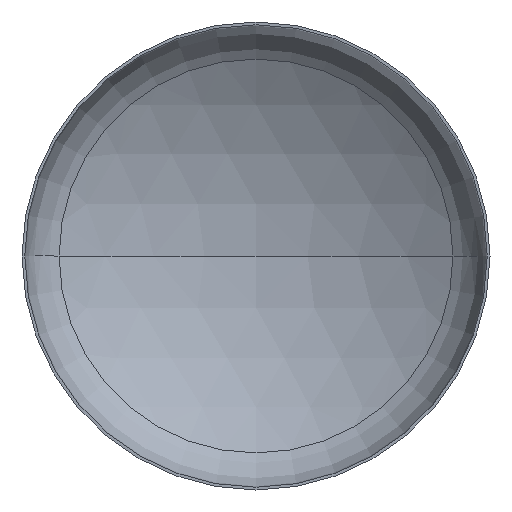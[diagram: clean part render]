
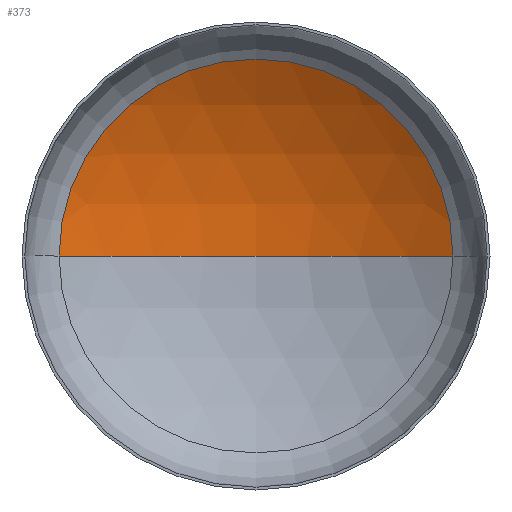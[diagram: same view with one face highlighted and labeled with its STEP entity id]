
A CAD part, front view. The second image highlights one B-rep face of the part: STEP entity #373.
In plain terms, the highlighted spherical face has radius 3600 mm.
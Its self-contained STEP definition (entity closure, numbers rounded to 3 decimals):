
#3 = AXIS2_PLACEMENT_3D ( 'NONE', #176, #384, #65 ) ;
#15 = AXIS2_PLACEMENT_3D ( 'NONE', #254, #37, #196 ) ;
#28 = VERTEX_POINT ( 'NONE', #217 ) ;
#37 = DIRECTION ( 'NONE',  ( 0., 0., 1. ) ) ;
#39 = ORIENTED_EDGE ( 'NONE', *, *, #140, .T. ) ;
#45 = DIRECTION ( 'NONE',  ( 1., 0., 0. ) ) ;
#46 = EDGE_LOOP ( 'NONE', ( #88, #84, #39 ) ) ;
#65 = DIRECTION ( 'NONE',  ( -1., 0., 0. ) ) ;
#67 = AXIS2_PLACEMENT_3D ( 'NONE', #338, #198, #362 ) ;
#78 = AXIS2_PLACEMENT_3D ( 'NONE', #404, #274, #45 ) ;
#84 = ORIENTED_EDGE ( 'NONE', *, *, #157, .T. ) ;
#88 = ORIENTED_EDGE ( 'NONE', *, *, #357, .F. ) ;
#102 = VERTEX_POINT ( 'NONE', #152 ) ;
#140 = EDGE_CURVE ( 'NONE', #162, #102, #265, .T. ) ;
#152 = CARTESIAN_POINT ( 'NONE',  ( -1893.563, 676.091, 0. ) ) ;
#157 = EDGE_CURVE ( 'NONE', #28, #162, #375, .T. ) ;
#162 = VERTEX_POINT ( 'NONE', #247 ) ;
#176 = CARTESIAN_POINT ( 'NONE',  ( 0., -2385.676, 0. ) ) ;
#196 = DIRECTION ( 'NONE',  ( 1., 0., 0. ) ) ;
#198 = DIRECTION ( 'NONE',  ( 0., 0., -1. ) ) ;
#217 = CARTESIAN_POINT ( 'NONE',  ( 0., 1214.324, 0. ) ) ;
#219 = SPHERICAL_SURFACE ( 'NONE', #3, 3600. ) ;
#229 = CIRCLE ( 'NONE', #15, 3600. ) ;
#247 = CARTESIAN_POINT ( 'NONE',  ( 1893.563, 676.091, 0. ) ) ;
#254 = CARTESIAN_POINT ( 'NONE',  ( 0., -2385.676, 0. ) ) ;
#265 = CIRCLE ( 'NONE', #78, 1893.563 ) ;
#274 = DIRECTION ( 'NONE',  ( 0., -1., 0. ) ) ;
#338 = CARTESIAN_POINT ( 'NONE',  ( 0., -2385.676, 0. ) ) ;
#339 = FACE_OUTER_BOUND ( 'NONE', #46, .T. ) ;
#357 = EDGE_CURVE ( 'NONE', #28, #102, #229, .T. ) ;
#362 = DIRECTION ( 'NONE',  ( -1., 0., 0. ) ) ;
#373 = ADVANCED_FACE ( 'NONE', ( #339 ), #219, .F. ) ;
#375 = CIRCLE ( 'NONE', #67, 3600. ) ;
#384 = DIRECTION ( 'NONE',  ( 0., 0., -1. ) ) ;
#404 = CARTESIAN_POINT ( 'NONE',  ( 0., 676.091, 0. ) ) ;
